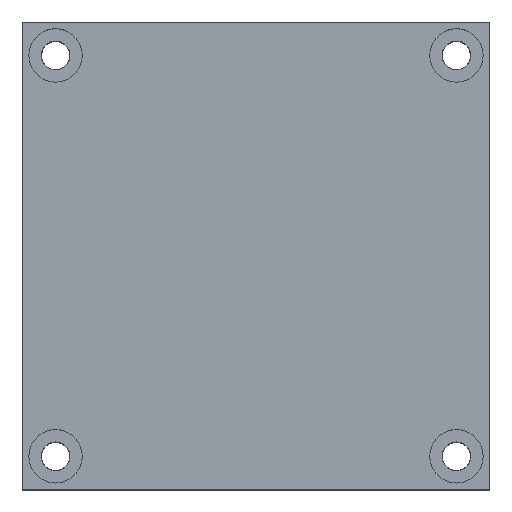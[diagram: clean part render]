
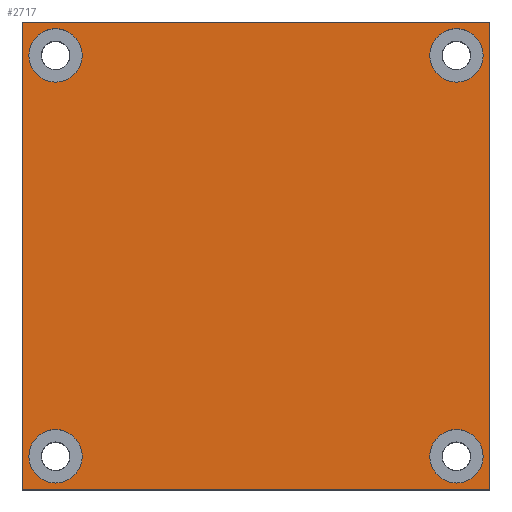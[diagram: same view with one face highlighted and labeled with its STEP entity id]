
A CAD part, top view. The second image highlights one B-rep face of the part: STEP entity #2717.
In plain terms, the highlighted planar face has unit normal (0, 0, 1).
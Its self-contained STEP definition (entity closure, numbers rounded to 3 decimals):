
#32 = DIRECTION ( 'NONE',  ( 0., 0., 1. ) ) ;
#83 = EDGE_CURVE ( 'NONE', #1103, #856, #1045, .T. ) ;
#93 = CARTESIAN_POINT ( 'NONE',  ( -35., 35., 12.5 ) ) ;
#129 = FACE_BOUND ( 'NONE', #595, .T. ) ;
#150 = ORIENTED_EDGE ( 'NONE', *, *, #2965, .F. ) ;
#166 = AXIS2_PLACEMENT_3D ( 'NONE', #593, #1006, #2410 ) ;
#204 = DIRECTION ( 'NONE',  ( 1., 0., 0. ) ) ;
#212 = CIRCLE ( 'NONE', #982, 4. ) ;
#277 = VERTEX_POINT ( 'NONE', #836 ) ;
#326 = FACE_BOUND ( 'NONE', #2293, .T. ) ;
#367 = AXIS2_PLACEMENT_3D ( 'NONE', #2617, #32, #1429 ) ;
#418 = AXIS2_PLACEMENT_3D ( 'NONE', #2954, #1323, #1145 ) ;
#439 = CARTESIAN_POINT ( 'NONE',  ( -35., -35., 12.5 ) ) ;
#518 = AXIS2_PLACEMENT_3D ( 'NONE', #1519, #1536, #2928 ) ;
#581 = CARTESIAN_POINT ( 'NONE',  ( -34., -30., 12.5 ) ) ;
#582 = EDGE_LOOP ( 'NONE', ( #1845, #725 ) ) ;
#593 = CARTESIAN_POINT ( 'NONE',  ( 30., 30., 12.5 ) ) ;
#595 = EDGE_LOOP ( 'NONE', ( #1308, #1281 ) ) ;
#602 = FACE_OUTER_BOUND ( 'NONE', #1978, .T. ) ;
#620 = PLANE ( 'NONE',  #518 ) ;
#692 = DIRECTION ( 'NONE',  ( 0., 0., 1. ) ) ;
#721 = DIRECTION ( 'NONE',  ( 1., 0., 0. ) ) ;
#725 = ORIENTED_EDGE ( 'NONE', *, *, #83, .F. ) ;
#750 = CARTESIAN_POINT ( 'NONE',  ( -35., -35., 12.5 ) ) ;
#801 = CIRCLE ( 'NONE', #2394, 4. ) ;
#810 = ORIENTED_EDGE ( 'NONE', *, *, #1141, .F. ) ;
#836 = CARTESIAN_POINT ( 'NONE',  ( 34., 30., 12.5 ) ) ;
#841 = CIRCLE ( 'NONE', #166, 4. ) ;
#849 = VERTEX_POINT ( 'NONE', #2660 ) ;
#856 = VERTEX_POINT ( 'NONE', #2428 ) ;
#864 = ORIENTED_EDGE ( 'NONE', *, *, #2377, .F. ) ;
#908 = DIRECTION ( 'NONE',  ( 0., 0., 1. ) ) ;
#982 = AXIS2_PLACEMENT_3D ( 'NONE', #2304, #1364, #2502 ) ;
#991 = LINE ( 'NONE', #1504, #2590 ) ;
#1006 = DIRECTION ( 'NONE',  ( 0., 0., 1. ) ) ;
#1036 = DIRECTION ( 'NONE',  ( 0., 0., 1. ) ) ;
#1040 = CIRCLE ( 'NONE', #1326, 4. ) ;
#1045 = CIRCLE ( 'NONE', #1766, 4. ) ;
#1100 = ORIENTED_EDGE ( 'NONE', *, *, #1768, .T. ) ;
#1103 = VERTEX_POINT ( 'NONE', #581 ) ;
#1141 = EDGE_CURVE ( 'NONE', #1493, #277, #841, .T. ) ;
#1145 = DIRECTION ( 'NONE',  ( 1., 0., 0. ) ) ;
#1164 = VERTEX_POINT ( 'NONE', #1931 ) ;
#1172 = EDGE_CURVE ( 'NONE', #2710, #1164, #991, .T. ) ;
#1232 = AXIS2_PLACEMENT_3D ( 'NONE', #2074, #908, #2522 ) ;
#1281 = ORIENTED_EDGE ( 'NONE', *, *, #1394, .F. ) ;
#1308 = ORIENTED_EDGE ( 'NONE', *, *, #2533, .F. ) ;
#1323 = DIRECTION ( 'NONE',  ( 0., 0., 1. ) ) ;
#1326 = AXIS2_PLACEMENT_3D ( 'NONE', #2272, #692, #204 ) ;
#1346 = DIRECTION ( 'NONE',  ( 1., 0., 0. ) ) ;
#1350 = ORIENTED_EDGE ( 'NONE', *, *, #2724, .T. ) ;
#1364 = DIRECTION ( 'NONE',  ( 0., 0., 1. ) ) ;
#1394 = EDGE_CURVE ( 'NONE', #2504, #2916, #212, .T. ) ;
#1429 = DIRECTION ( 'NONE',  ( 1., 0., 0. ) ) ;
#1486 = DIRECTION ( 'NONE',  ( 1., 0., 0. ) ) ;
#1493 = VERTEX_POINT ( 'NONE', #1695 ) ;
#1504 = CARTESIAN_POINT ( 'NONE',  ( 35., 35., 12.5 ) ) ;
#1519 = CARTESIAN_POINT ( 'NONE',  ( 0., 0., 12.5 ) ) ;
#1523 = CARTESIAN_POINT ( 'NONE',  ( 26., -30., 12.5 ) ) ;
#1536 = DIRECTION ( 'NONE',  ( 0., 0., 1. ) ) ;
#1570 = CIRCLE ( 'NONE', #418, 4. ) ;
#1589 = VERTEX_POINT ( 'NONE', #1523 ) ;
#1695 = CARTESIAN_POINT ( 'NONE',  ( 26., 30., 12.5 ) ) ;
#1726 = VECTOR ( 'NONE', #2238, 1000. ) ;
#1765 = EDGE_CURVE ( 'NONE', #2266, #1589, #2159, .T. ) ;
#1766 = AXIS2_PLACEMENT_3D ( 'NONE', #2804, #1884, #721 ) ;
#1768 = EDGE_CURVE ( 'NONE', #1815, #2710, #2556, .T. ) ;
#1815 = VERTEX_POINT ( 'NONE', #750 ) ;
#1844 = CARTESIAN_POINT ( 'NONE',  ( -26., 30., 12.5 ) ) ;
#1845 = ORIENTED_EDGE ( 'NONE', *, *, #2755, .F. ) ;
#1884 = DIRECTION ( 'NONE',  ( 0., 0., 1. ) ) ;
#1922 = VECTOR ( 'NONE', #1346, 1000. ) ;
#1931 = CARTESIAN_POINT ( 'NONE',  ( 35., 35., 12.5 ) ) ;
#1978 = EDGE_LOOP ( 'NONE', ( #2200, #1350, #2321, #1100 ) ) ;
#2000 = FACE_BOUND ( 'NONE', #2066, .T. ) ;
#2066 = EDGE_LOOP ( 'NONE', ( #2228, #150 ) ) ;
#2074 = CARTESIAN_POINT ( 'NONE',  ( 30., -30., 12.5 ) ) ;
#2111 = LINE ( 'NONE', #2807, #2345 ) ;
#2159 = CIRCLE ( 'NONE', #1232, 4. ) ;
#2197 = EDGE_CURVE ( 'NONE', #849, #1815, #2111, .T. ) ;
#2200 = ORIENTED_EDGE ( 'NONE', *, *, #1172, .T. ) ;
#2228 = ORIENTED_EDGE ( 'NONE', *, *, #1765, .F. ) ;
#2238 = DIRECTION ( 'NONE',  ( -1., 0., 0. ) ) ;
#2266 = VERTEX_POINT ( 'NONE', #2373 ) ;
#2272 = CARTESIAN_POINT ( 'NONE',  ( 30., -30., 12.5 ) ) ;
#2293 = EDGE_LOOP ( 'NONE', ( #864, #810 ) ) ;
#2304 = CARTESIAN_POINT ( 'NONE',  ( -30., 30., 12.5 ) ) ;
#2321 = ORIENTED_EDGE ( 'NONE', *, *, #2197, .T. ) ;
#2345 = VECTOR ( 'NONE', #2609, 1000. ) ;
#2349 = CIRCLE ( 'NONE', #367, 4. ) ;
#2373 = CARTESIAN_POINT ( 'NONE',  ( 34., -30., 12.5 ) ) ;
#2377 = EDGE_CURVE ( 'NONE', #277, #1493, #1570, .T. ) ;
#2387 = CARTESIAN_POINT ( 'NONE',  ( -34., 30., 12.5 ) ) ;
#2394 = AXIS2_PLACEMENT_3D ( 'NONE', #2458, #1036, #1486 ) ;
#2410 = DIRECTION ( 'NONE',  ( 1., 0., 0. ) ) ;
#2428 = CARTESIAN_POINT ( 'NONE',  ( -26., -30., 12.5 ) ) ;
#2441 = DIRECTION ( 'NONE',  ( 0., 1., 0. ) ) ;
#2458 = CARTESIAN_POINT ( 'NONE',  ( -30., -30., 12.5 ) ) ;
#2502 = DIRECTION ( 'NONE',  ( 1., 0., 0. ) ) ;
#2504 = VERTEX_POINT ( 'NONE', #2387 ) ;
#2522 = DIRECTION ( 'NONE',  ( 1., 0., 0. ) ) ;
#2533 = EDGE_CURVE ( 'NONE', #2916, #2504, #2349, .T. ) ;
#2556 = LINE ( 'NONE', #439, #1922 ) ;
#2590 = VECTOR ( 'NONE', #2441, 1000. ) ;
#2609 = DIRECTION ( 'NONE',  ( 0., -1., 0. ) ) ;
#2617 = CARTESIAN_POINT ( 'NONE',  ( -30., 30., 12.5 ) ) ;
#2632 = CARTESIAN_POINT ( 'NONE',  ( 35., -35., 12.5 ) ) ;
#2660 = CARTESIAN_POINT ( 'NONE',  ( -35., 35., 12.5 ) ) ;
#2665 = LINE ( 'NONE', #93, #1726 ) ;
#2710 = VERTEX_POINT ( 'NONE', #2632 ) ;
#2717 = ADVANCED_FACE ( 'NONE', ( #2881, #129, #326, #2000, #602 ), #620, .T. ) ;
#2724 = EDGE_CURVE ( 'NONE', #1164, #849, #2665, .T. ) ;
#2755 = EDGE_CURVE ( 'NONE', #856, #1103, #801, .T. ) ;
#2804 = CARTESIAN_POINT ( 'NONE',  ( -30., -30., 12.5 ) ) ;
#2807 = CARTESIAN_POINT ( 'NONE',  ( -35., 35., 12.5 ) ) ;
#2881 = FACE_BOUND ( 'NONE', #582, .T. ) ;
#2916 = VERTEX_POINT ( 'NONE', #1844 ) ;
#2928 = DIRECTION ( 'NONE',  ( 1., 0., 0. ) ) ;
#2954 = CARTESIAN_POINT ( 'NONE',  ( 30., 30., 12.5 ) ) ;
#2965 = EDGE_CURVE ( 'NONE', #1589, #2266, #1040, .T. ) ;
